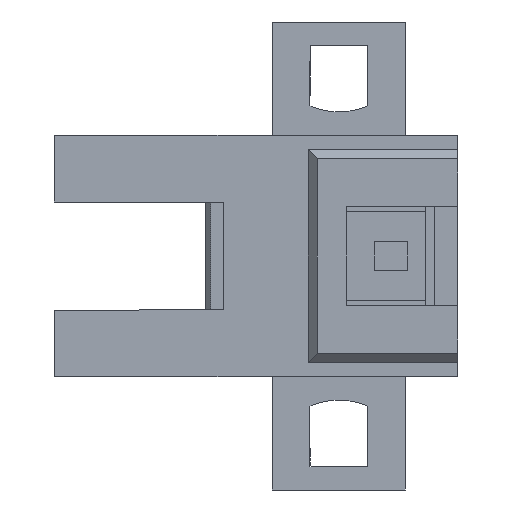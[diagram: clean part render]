
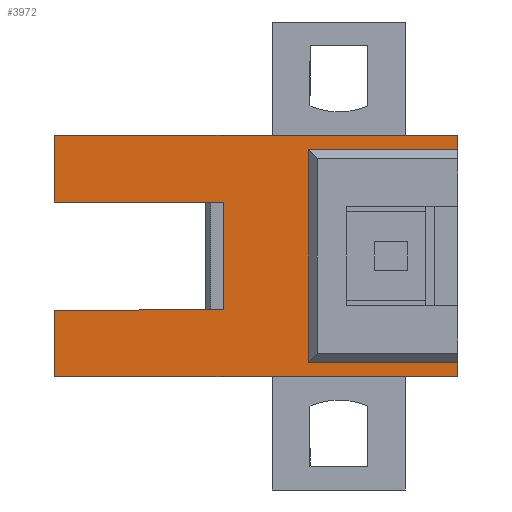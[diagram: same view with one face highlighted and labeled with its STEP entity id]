
A CAD part, left-side view. The second image highlights one B-rep face of the part: STEP entity #3972.
In plain terms, the highlighted planar face has unit normal (-1, 0, 0).
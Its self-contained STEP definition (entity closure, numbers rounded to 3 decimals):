
#206 = EDGE_CURVE ( 'NONE', #2627, #2612, #788, .T. ) ;
#207 = EDGE_CURVE ( 'NONE', #2612, #2613, #790, .T. ) ;
#208 = EDGE_CURVE ( 'NONE', #2613, #2610, #792, .T. ) ;
#209 = EDGE_CURVE ( 'NONE', #2610, #2636, #794, .T. ) ;
#210 = EDGE_CURVE ( 'NONE', #2636, #2607, #786, .T. ) ;
#211 = EDGE_CURVE ( 'NONE', #2607, #2606, #798, .T. ) ;
#212 = EDGE_CURVE ( 'NONE', #2606, #2556, #800, .T. ) ;
#213 = EDGE_CURVE ( 'NONE', #2556, #2634, #779, .T. ) ;
#214 = EDGE_CURVE ( 'NONE', #2634, #2633, #782, .T. ) ;
#215 = EDGE_CURVE ( 'NONE', #2633, #2632, #797, .T. ) ;
#216 = EDGE_CURVE ( 'NONE', #2630, #2629, #808, .T. ) ;
#217 = EDGE_CURVE ( 'NONE', #2626, #2627, #810, .T. ) ;
#218 = EDGE_CURVE ( 'NONE', #2628, #2626, #812, .T. ) ;
#219 = EDGE_CURVE ( 'NONE', #2632, #2631, #814, .T. ) ;
#220 = EDGE_CURVE ( 'NONE', #2631, #2630, #803, .T. ) ;
#222 = EDGE_CURVE ( 'NONE', #2629, #2628, #807, .T. ) ;
#553 = AXIS2_PLACEMENT_3D ( 'NONE', #1953, #1962, #1963 ) ;
#779 = LINE ( 'NONE', #2675, #802 ) ;
#782 = LINE ( 'NONE', #2667, #804 ) ;
#786 = LINE ( 'NONE', #2697, #796 ) ;
#788 = LINE ( 'NONE', #2686, #789 ) ;
#789 = VECTOR ( 'NONE', #2685, 1000. ) ;
#790 = LINE ( 'NONE', #2684, #791 ) ;
#791 = VECTOR ( 'NONE', #2682, 1000. ) ;
#792 = LINE ( 'NONE', #2680, #793 ) ;
#793 = VECTOR ( 'NONE', #2679, 1000. ) ;
#794 = LINE ( 'NONE', #2677, #795 ) ;
#795 = VECTOR ( 'NONE', #2676, 1000. ) ;
#796 = VECTOR ( 'NONE', #2674, 1000. ) ;
#797 = LINE ( 'NONE', #2665, #806 ) ;
#798 = LINE ( 'NONE', #2671, #799 ) ;
#799 = VECTOR ( 'NONE', #2670, 1000. ) ;
#800 = LINE ( 'NONE', #2669, #801 ) ;
#801 = VECTOR ( 'NONE', #2668, 1000. ) ;
#802 = VECTOR ( 'NONE', #2666, 1000. ) ;
#803 = LINE ( 'NONE', #2662, #816 ) ;
#804 = VECTOR ( 'NONE', #2664, 1000. ) ;
#806 = VECTOR ( 'NONE', #2661, 1000. ) ;
#807 = LINE ( 'NONE', #2646, #820 ) ;
#808 = LINE ( 'NONE', #2660, #809 ) ;
#809 = VECTOR ( 'NONE', #2659, 1000. ) ;
#810 = LINE ( 'NONE', #2656, #811 ) ;
#811 = VECTOR ( 'NONE', #2655, 1000. ) ;
#812 = LINE ( 'NONE', #2654, #813 ) ;
#813 = VECTOR ( 'NONE', #2653, 1000. ) ;
#814 = LINE ( 'NONE', #2652, #815 ) ;
#815 = VECTOR ( 'NONE', #2651, 1000. ) ;
#816 = VECTOR ( 'NONE', #2647, 1000. ) ;
#820 = VECTOR ( 'NONE', #3077, 1000. ) ;
#1198 = FACE_OUTER_BOUND ( 'NONE', #3141, .T. ) ;
#1384 = CARTESIAN_POINT ( 'NONE',  ( -3., -12.1, 8.9 ) ) ;
#1429 = CARTESIAN_POINT ( 'NONE',  ( -3., -20.4, 8.9 ) ) ;
#1430 = CARTESIAN_POINT ( 'NONE',  ( -3., -20.4, 9.7 ) ) ;
#1433 = CARTESIAN_POINT ( 'NONE',  ( -3., -10.1, 9.7 ) ) ;
#1435 = CARTESIAN_POINT ( 'NONE',  ( -3., 2., 6. ) ) ;
#1436 = CARTESIAN_POINT ( 'NONE',  ( -3., 2., 9.7 ) ) ;
#1449 = CARTESIAN_POINT ( 'NONE',  ( -3., -7.4, 0. ) ) ;
#1450 = CARTESIAN_POINT ( 'NONE',  ( -3., -7.4, 6. ) ) ;
#1451 = CARTESIAN_POINT ( 'NONE',  ( -3., 2., 0. ) ) ;
#1452 = CARTESIAN_POINT ( 'NONE',  ( -3., 2., -3.7 ) ) ;
#1453 = CARTESIAN_POINT ( 'NONE',  ( -3., -10.1, -3.7 ) ) ;
#1454 = CARTESIAN_POINT ( 'NONE',  ( -3., -17.5, -3.7 ) ) ;
#1455 = CARTESIAN_POINT ( 'NONE',  ( -3., -20.4, -3.7 ) ) ;
#1456 = CARTESIAN_POINT ( 'NONE',  ( -3., -20.4, -2.9 ) ) ;
#1457 = CARTESIAN_POINT ( 'NONE',  ( -3., -12.1, -2.9 ) ) ;
#1459 = CARTESIAN_POINT ( 'NONE',  ( -3., -17.5, 9.7 ) ) ;
#1952 = PLANE ( 'NONE',  #553 ) ;
#1953 = CARTESIAN_POINT ( 'NONE',  ( -3., 2., 0. ) ) ;
#1962 = DIRECTION ( 'NONE',  ( 1., 0., 0. ) ) ;
#1963 = DIRECTION ( 'NONE',  ( 0., 0., -1. ) ) ;
#2556 = VERTEX_POINT ( 'NONE', #1384 ) ;
#2606 = VERTEX_POINT ( 'NONE', #1429 ) ;
#2607 = VERTEX_POINT ( 'NONE', #1430 ) ;
#2610 = VERTEX_POINT ( 'NONE', #1433 ) ;
#2612 = VERTEX_POINT ( 'NONE', #1435 ) ;
#2613 = VERTEX_POINT ( 'NONE', #1436 ) ;
#2626 = VERTEX_POINT ( 'NONE', #1449 ) ;
#2627 = VERTEX_POINT ( 'NONE', #1450 ) ;
#2628 = VERTEX_POINT ( 'NONE', #1451 ) ;
#2629 = VERTEX_POINT ( 'NONE', #1452 ) ;
#2630 = VERTEX_POINT ( 'NONE', #1453 ) ;
#2631 = VERTEX_POINT ( 'NONE', #1454 ) ;
#2632 = VERTEX_POINT ( 'NONE', #1455 ) ;
#2633 = VERTEX_POINT ( 'NONE', #1456 ) ;
#2634 = VERTEX_POINT ( 'NONE', #1457 ) ;
#2636 = VERTEX_POINT ( 'NONE', #1459 ) ;
#2646 = CARTESIAN_POINT ( 'NONE',  ( -3., 2., -3.7 ) ) ;
#2647 = DIRECTION ( 'NONE',  ( 0., 1., 0. ) ) ;
#2651 = DIRECTION ( 'NONE',  ( 0., 1., 0. ) ) ;
#2652 = CARTESIAN_POINT ( 'NONE',  ( -3., -20.4, -3.7 ) ) ;
#2653 = DIRECTION ( 'NONE',  ( 0., -1., 0. ) ) ;
#2654 = CARTESIAN_POINT ( 'NONE',  ( -3., 2., 0. ) ) ;
#2655 = DIRECTION ( 'NONE',  ( 0., 0., 1. ) ) ;
#2656 = CARTESIAN_POINT ( 'NONE',  ( -3., -7.4, 0. ) ) ;
#2659 = DIRECTION ( 'NONE',  ( 0., 1., 0. ) ) ;
#2660 = CARTESIAN_POINT ( 'NONE',  ( -3., -20.4, -3.7 ) ) ;
#2661 = DIRECTION ( 'NONE',  ( 0., 0., -1. ) ) ;
#2662 = CARTESIAN_POINT ( 'NONE',  ( -3., -20.4, -3.7 ) ) ;
#2664 = DIRECTION ( 'NONE',  ( 0., -1., 0. ) ) ;
#2665 = CARTESIAN_POINT ( 'NONE',  ( -3., -20.4, 9.7 ) ) ;
#2666 = DIRECTION ( 'NONE',  ( 0., 0., -1. ) ) ;
#2667 = CARTESIAN_POINT ( 'NONE',  ( -3., -12.1, -2.9 ) ) ;
#2668 = DIRECTION ( 'NONE',  ( 0., 1., 0. ) ) ;
#2669 = CARTESIAN_POINT ( 'NONE',  ( -3., -12.1, 8.9 ) ) ;
#2670 = DIRECTION ( 'NONE',  ( 0., 0., -1. ) ) ;
#2671 = CARTESIAN_POINT ( 'NONE',  ( -3., -20.4, 9.7 ) ) ;
#2674 = DIRECTION ( 'NONE',  ( 0., -1., 0. ) ) ;
#2675 = CARTESIAN_POINT ( 'NONE',  ( -3., -12.1, -2.9 ) ) ;
#2676 = DIRECTION ( 'NONE',  ( 0., -1., 0. ) ) ;
#2677 = CARTESIAN_POINT ( 'NONE',  ( -3., 2., 9.7 ) ) ;
#2679 = DIRECTION ( 'NONE',  ( 0., -1., 0. ) ) ;
#2680 = CARTESIAN_POINT ( 'NONE',  ( -3., 2., 9.7 ) ) ;
#2682 = DIRECTION ( 'NONE',  ( 0., 0., 1. ) ) ;
#2684 = CARTESIAN_POINT ( 'NONE',  ( -3., 2., 6. ) ) ;
#2685 = DIRECTION ( 'NONE',  ( 0., 1., 0. ) ) ;
#2686 = CARTESIAN_POINT ( 'NONE',  ( -3., -6.4, 6. ) ) ;
#2697 = CARTESIAN_POINT ( 'NONE',  ( -3., 2., 9.7 ) ) ;
#3077 = DIRECTION ( 'NONE',  ( 0., 0., 1. ) ) ;
#3134 = ORIENTED_EDGE ( 'NONE', *, *, #214, .F. ) ;
#3135 = ORIENTED_EDGE ( 'NONE', *, *, #213, .F. ) ;
#3136 = ORIENTED_EDGE ( 'NONE', *, *, #211, .F. ) ;
#3137 = ORIENTED_EDGE ( 'NONE', *, *, #212, .F. ) ;
#3138 = ORIENTED_EDGE ( 'NONE', *, *, #210, .F. ) ;
#3141 = EDGE_LOOP ( 'NONE', ( #3586, #3587, #3588, #3589, #3590, #3591, #3592, #3134, #3135, #3137, #3136, #3138, #3299, #3301, #3300, #3302 ) ) ;
#3299 = ORIENTED_EDGE ( 'NONE', *, *, #209, .F. ) ;
#3300 = ORIENTED_EDGE ( 'NONE', *, *, #207, .F. ) ;
#3301 = ORIENTED_EDGE ( 'NONE', *, *, #208, .F. ) ;
#3302 = ORIENTED_EDGE ( 'NONE', *, *, #206, .F. ) ;
#3586 = ORIENTED_EDGE ( 'NONE', *, *, #217, .F. ) ;
#3587 = ORIENTED_EDGE ( 'NONE', *, *, #218, .F. ) ;
#3588 = ORIENTED_EDGE ( 'NONE', *, *, #222, .F. ) ;
#3589 = ORIENTED_EDGE ( 'NONE', *, *, #216, .F. ) ;
#3590 = ORIENTED_EDGE ( 'NONE', *, *, #220, .F. ) ;
#3591 = ORIENTED_EDGE ( 'NONE', *, *, #219, .F. ) ;
#3592 = ORIENTED_EDGE ( 'NONE', *, *, #215, .F. ) ;
#3972 = ADVANCED_FACE ( 'NONE', ( #1198 ), #1952, .F. ) ;
